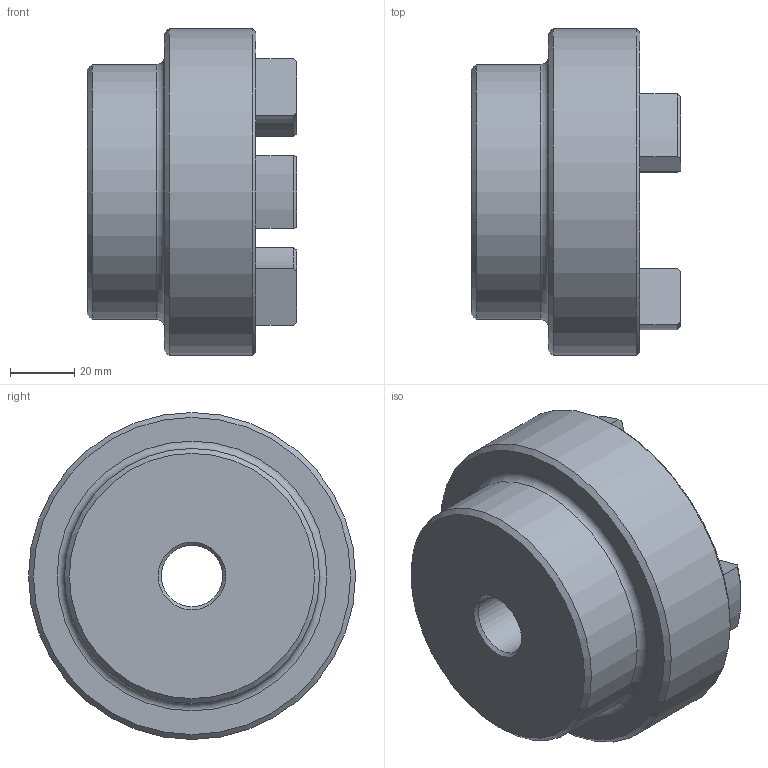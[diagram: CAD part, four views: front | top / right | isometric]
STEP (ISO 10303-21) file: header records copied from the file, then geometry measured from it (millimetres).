
FILE_DESCRIPTION (( 'STEP AP203' ), '1' );
FILE_NAME ('RC4.step', '2024-07-24T17:49:52', ( 'Adlan' ), ( '' ), 'SwSTEP 2.0', 'SolidWorks 2013', '' );
FILE_SCHEMA (( 'CONFIG_CONTROL_DESIGN' ));
Length unit declared in the file: inch
Products named in the file (1): RC4
Bounding box: 65.02 x 101.6 x 101.6 mm (x, y, z)
Volume: 270061.1 mm3; surface area: 39952.3 mm2
Topology: 1 solids, 1 shells, 60 faces, 146 edges, 90 vertices
Faces by surface type: cylinder 24, plane 13, torus 13, cone 10
Full cylindrical faces by diameter (mm): 19.058 x1, 79.248 x1, 101.6 x1
Entity records: 1841 total; most frequent: CARTESIAN_POINT 341, DIRECTION 324, ORIENTED_EDGE 274, EDGE_CURVE 137, AXIS2_PLACEMENT_3D 132, VERTEX_POINT 89, EDGE_LOOP 72, CIRCLE 71
